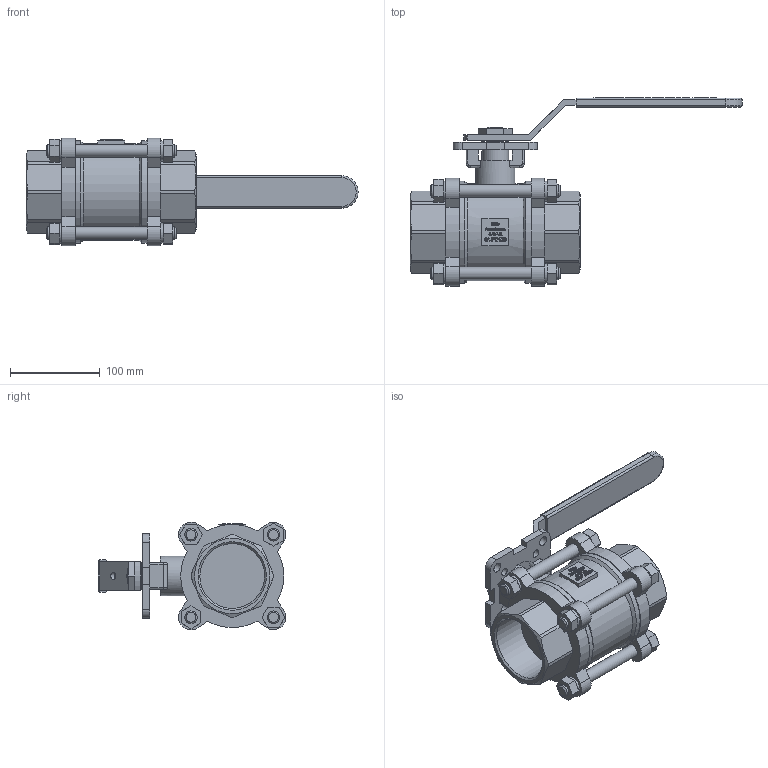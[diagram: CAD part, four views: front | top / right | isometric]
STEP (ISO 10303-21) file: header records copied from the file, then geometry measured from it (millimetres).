
FILE_DESCRIPTION((''),'2;1');
FILE_NAME('K:\Inventor\1 Artikel\11) Muffen-Kugelhähne\11a) manuell\Econosto\470-VA, 7444ISO\470-VA, G2,5\470-VA, G2,5, 3D\470-VA, G2,5, PN50, HH, 3D.stp','2019-10-24T09:40:23',('claudia'),(''),'Autodesk Inventor 2013','Autodesk Inventor 2013','');
FILE_SCHEMA(('AUTOMOTIVE_DESIGN { 1 0 10303 214 1 1 1 1 }'));
Length unit declared in the file: millimetre
Products named in the file (1): Bauteil8
Bounding box: 370 x 209.51 x 119.82 mm (x, y, z)
Volume: 1601636.2 mm3; surface area: 190673.4 mm2
Topology: 1 solids, 1 shells, 992 faces, 2634 edges, 1730 vertices
Faces by surface type: plane 617, bspline 273, cylinder 82, cone 14, torus 6
Full cylindrical faces by diameter (mm): 8 x2, 9 x4, 11 x4, 14 x12, 22 x8, 30 x1, 44 x1, 48 x1, 72.227 x2, 108 x1, 114 x2
Entity records: 32808 total; most frequent: CARTESIAN_POINT 9809, ORIENTED_EDGE 5134, DIRECTION 3649, EDGE_CURVE 2567, VECTOR 1759, LINE 1759, VERTEX_POINT 1716, EDGE_LOOP 1163
